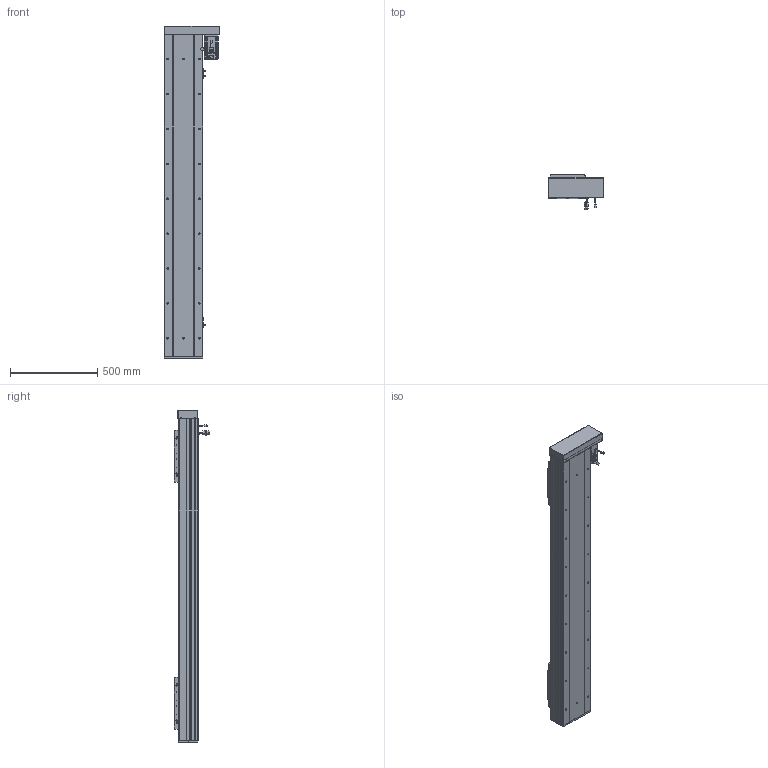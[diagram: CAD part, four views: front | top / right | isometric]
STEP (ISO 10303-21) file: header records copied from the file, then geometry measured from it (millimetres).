
FILE_DESCRIPTION (( 'STEP AP203' ), '1' );
FILE_NAME ('RY220F-L2525-800-RK-邧嶺.SLDASM_1400.step', '2022-08-06T08:19:28', ( '' ), ( '' ), 'SwSTEP 2.0', 'SolidWorks 2016', '' );
FILE_SCHEMA (( 'CONFIG_CONTROL_DESIGN' ));
Length unit declared in the file: millimetre
Products named in the file (15): RY220酘衵殏萇儂欶; RY220F-672覜茼んえ; 覜茼ん672; RY220F-L2525-800-RK-邧嶺.SLDASM_1400; RY220F臏賑釱25-32佪裝; RY220F綴裔啣; RY220F-蛌殏奻裔啣-800_1400; RY220F-詩湍揤踡輸; 侐源滅袉蝶; RY220F-滅鳥奻裔; RY220F蛌殏菁釱-800-邧嶺_1400; 怢湛750W_ECMA-CX0807ES; 滅袉蝶18-24; RY220F-祥凄詩湍-蛌殏-800_1400; RY220左右折电机安装板
Assembly tree (24 placements, depth 2):
  RY220F-L2525-800-RK-邧嶺.SLDASM_1400
    RY220F蛌殏菁釱-800-邧嶺_1400
    RY220F-蛌殏奻裔啣-800_1400  x2
    怢湛750W_ECMA-CX0807ES
    RY220F臏賑釱25-32佪裝  x2
    RY220F-滅鳥奻裔  x2
    滅袉蝶18-24  x3
    RY220F綴裔啣
    RY220F-祥凄詩湍-蛌殏-800_1400
    RY220F-詩湍揤踡輸  x2
    覜茼ん672  x3
    RY220F-672覜茼んえ  x2
    RY220左右折电机安装板
    RY220酘衵殏萇儂欶
    侐源滅袉蝶  x2
Bounding box: 317.5 x 205.27 x 1903 mm (x, y, z)
Volume: 17268214.5 mm3; surface area: 4562046.9 mm2
Topology: 25 solids, 25 shells, 2816 faces, 7652 edges, 4724 vertices
Faces by surface type: cylinder 1274, plane 1044, cone 427, bspline 45, sphere 16, torus 10
Entity records: 69980 total; most frequent: CARTESIAN_POINT 18857, ORIENTED_EDGE 10310, DIRECTION 10080, EDGE_CURVE 5155, AXIS2_PLACEMENT_3D 3598, VERTEX_POINT 3340, LINE 2884, VECTOR 2884
